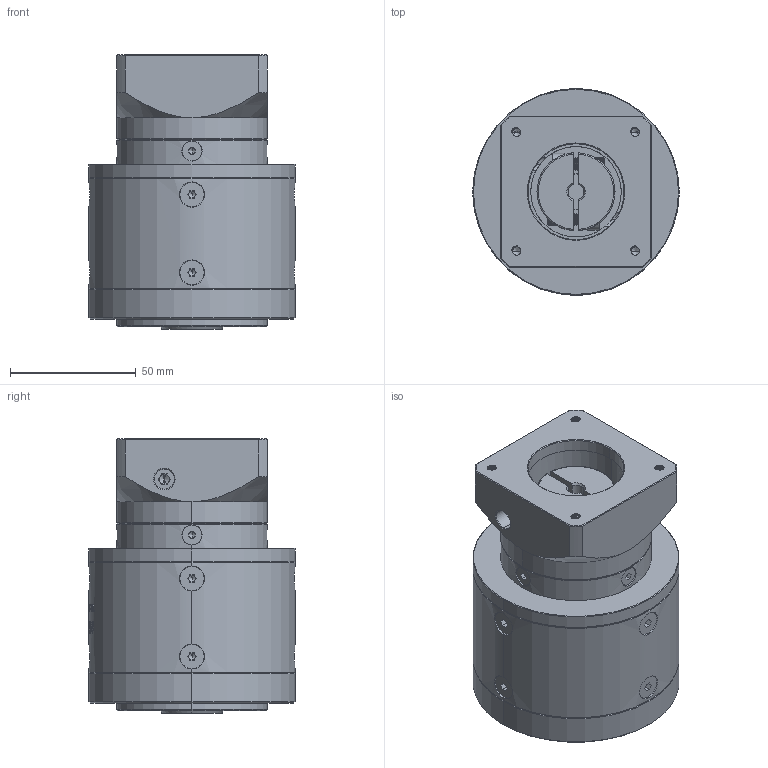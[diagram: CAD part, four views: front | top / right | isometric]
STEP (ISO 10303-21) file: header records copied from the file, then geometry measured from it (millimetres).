
FILE_DESCRIPTION (( 'STEP AP214' ), '1' );
FILE_NAME ('ZE80-K15-L2-6.35-38.1-47.14X47.14-M4.step', '2022-05-08T06:07:13', ( '' ), ( 'Microsoft' ), 'SwSTEP 2.0', 'SolidWorks 2016', '' );
FILE_SCHEMA (( 'AUTOMOTIVE_DESIGN' ));
Length unit declared in the file: millimetre
Products named in the file (1): ZE80-K15-L2-6.35-38.1-47.14X47.14-M4
Bounding box: 82 x 82 x 109 mm (x, y, z)
Volume: 431551.8 mm3; surface area: 62685.5 mm2
Topology: 18 solids, 18 shells, 2038 faces, 5364 edges, 3416 vertices
Faces by surface type: plane 936, cylinder 458, bspline 330, cone 300, torus 14
Entity records: 109856 total; most frequent: CARTESIAN_POINT 41033, ORIENTED_EDGE 10640, DIRECTION 8317, EDGE_CURVE 5320, VERTEX_POINT 3416, LINE 2857, VECTOR 2857, AXIS2_PLACEMENT_3D 2730
